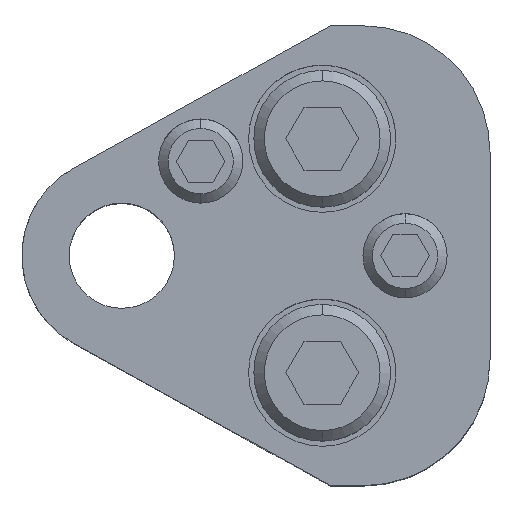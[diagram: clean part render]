
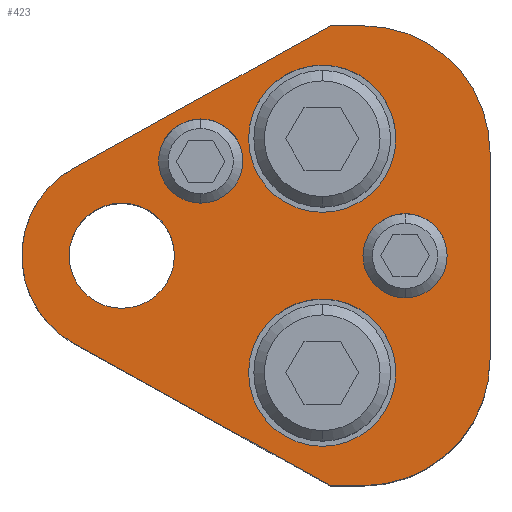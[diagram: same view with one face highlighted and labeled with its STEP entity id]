
A CAD part, top view. The second image highlights one B-rep face of the part: STEP entity #423.
In plain terms, the highlighted planar face has unit normal (0, 0, 1).
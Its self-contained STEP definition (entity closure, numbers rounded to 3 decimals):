
#198=FACE_BOUND('',#745,.T.);
#199=FACE_BOUND('',#746,.T.);
#200=FACE_BOUND('',#747,.T.);
#201=FACE_BOUND('',#748,.T.);
#202=FACE_BOUND('',#749,.T.);
#203=FACE_BOUND('',#750,.T.);
#273=CIRCLE('',#2385,12.);
#275=CIRCLE('',#2389,12.);
#277=CIRCLE('',#2394,4.);
#279=CIRCLE('',#2397,4.);
#281=CIRCLE('',#2400,4.);
#283=CIRCLE('',#2403,4.);
#293=CIRCLE('',#2418,9.5);
#294=CIRCLE('',#2419,7.);
#295=CIRCLE('',#2420,7.);
#296=CIRCLE('',#2421,7.);
#297=CIRCLE('',#2422,7.);
#298=CIRCLE('',#2423,5.);
#299=CIRCLE('',#2424,5.);
#423=ADVANCED_FACE('',(#198,#199,#200,#201,#202,#203),#519,.T.);
#519=PLANE('',#2425);
#745=EDGE_LOOP('',(#1122,#1123,#1124,#1125,#1126,#1127,#1128,#1129));
#746=EDGE_LOOP('',(#1130,#1131));
#747=EDGE_LOOP('',(#1132,#1133));
#748=EDGE_LOOP('',(#1134,#1135));
#749=EDGE_LOOP('',(#1136,#1137));
#750=EDGE_LOOP('',(#1138,#1139));
#1122=ORIENTED_EDGE('',*,*,#1794,.T.);
#1123=ORIENTED_EDGE('',*,*,#1752,.T.);
#1124=ORIENTED_EDGE('',*,*,#1756,.T.);
#1125=ORIENTED_EDGE('',*,*,#1759,.T.);
#1126=ORIENTED_EDGE('',*,*,#1762,.T.);
#1127=ORIENTED_EDGE('',*,*,#1765,.T.);
#1128=ORIENTED_EDGE('',*,*,#1768,.T.);
#1129=ORIENTED_EDGE('',*,*,#1795,.T.);
#1130=ORIENTED_EDGE('',*,*,#1796,.F.);
#1131=ORIENTED_EDGE('',*,*,#1797,.F.);
#1132=ORIENTED_EDGE('',*,*,#1798,.F.);
#1133=ORIENTED_EDGE('',*,*,#1799,.F.);
#1134=ORIENTED_EDGE('',*,*,#1780,.F.);
#1135=ORIENTED_EDGE('',*,*,#1776,.F.);
#1136=ORIENTED_EDGE('',*,*,#1774,.F.);
#1137=ORIENTED_EDGE('',*,*,#1770,.F.);
#1138=ORIENTED_EDGE('',*,*,#1800,.T.);
#1139=ORIENTED_EDGE('',*,*,#1801,.T.);
#1513=VERTEX_POINT('',#3544);
#1514=VERTEX_POINT('',#3546);
#1517=VERTEX_POINT('',#3553);
#1519=VERTEX_POINT('',#3559);
#1521=VERTEX_POINT('',#3565);
#1523=VERTEX_POINT('',#3571);
#1525=VERTEX_POINT('',#3577);
#1526=VERTEX_POINT('',#3582);
#1527=VERTEX_POINT('',#3583);
#1530=VERTEX_POINT('',#3594);
#1531=VERTEX_POINT('',#3595);
#1542=VERTEX_POINT('',#3630);
#1543=VERTEX_POINT('',#3633);
#1544=VERTEX_POINT('',#3634);
#1545=VERTEX_POINT('',#3637);
#1546=VERTEX_POINT('',#3638);
#1547=VERTEX_POINT('',#3641);
#1548=VERTEX_POINT('',#3642);
#1752=EDGE_CURVE('',#1514,#1513,#2006,.T.);
#1756=EDGE_CURVE('',#1513,#1517,#273,.T.);
#1759=EDGE_CURVE('',#1517,#1519,#2011,.T.);
#1762=EDGE_CURVE('',#1519,#1521,#275,.T.);
#1765=EDGE_CURVE('',#1521,#1523,#2015,.T.);
#1768=EDGE_CURVE('',#1523,#1525,#2018,.T.);
#1770=EDGE_CURVE('',#1526,#1527,#277,.T.);
#1774=EDGE_CURVE('',#1527,#1526,#279,.T.);
#1776=EDGE_CURVE('',#1530,#1531,#281,.T.);
#1780=EDGE_CURVE('',#1531,#1530,#283,.T.);
#1794=EDGE_CURVE('',#1542,#1514,#2028,.T.);
#1795=EDGE_CURVE('',#1525,#1542,#293,.T.);
#1796=EDGE_CURVE('',#1543,#1544,#294,.T.);
#1797=EDGE_CURVE('',#1544,#1543,#295,.T.);
#1798=EDGE_CURVE('',#1545,#1546,#296,.T.);
#1799=EDGE_CURVE('',#1546,#1545,#297,.T.);
#1800=EDGE_CURVE('',#1547,#1548,#298,.T.);
#1801=EDGE_CURVE('',#1548,#1547,#299,.T.);
#2006=LINE('',#3545,#2179);
#2011=LINE('',#3560,#2184);
#2015=LINE('',#3572,#2188);
#2018=LINE('',#3578,#2191);
#2028=LINE('',#3629,#2201);
#2179=VECTOR('',#2815,1.);
#2184=VECTOR('',#2828,1.);
#2188=VECTOR('',#2840,1.);
#2191=VECTOR('',#2845,1.);
#2201=VECTOR('',#2905,1.);
#2385=AXIS2_PLACEMENT_3D('',#3554,#2821,#2822);
#2389=AXIS2_PLACEMENT_3D('',#3566,#2833,#2834);
#2394=AXIS2_PLACEMENT_3D('',#3581,#2849,#2850);
#2397=AXIS2_PLACEMENT_3D('',#3590,#2857,#2858);
#2400=AXIS2_PLACEMENT_3D('',#3593,#2863,#2864);
#2403=AXIS2_PLACEMENT_3D('',#3602,#2871,#2872);
#2418=AXIS2_PLACEMENT_3D('',#3631,#2906,#2907);
#2419=AXIS2_PLACEMENT_3D('',#3632,#2908,#2909);
#2420=AXIS2_PLACEMENT_3D('',#3635,#2910,#2911);
#2421=AXIS2_PLACEMENT_3D('',#3636,#2912,#2913);
#2422=AXIS2_PLACEMENT_3D('',#3639,#2914,#2915);
#2423=AXIS2_PLACEMENT_3D('',#3640,#2916,#2917);
#2424=AXIS2_PLACEMENT_3D('',#3643,#2918,#2919);
#2425=AXIS2_PLACEMENT_3D('',#3644,#2920,#2921);
#2815=DIRECTION('',(1.,0.,0.));
#2821=DIRECTION('',(0.,0.,1.));
#2822=DIRECTION('',(-0.707,0.707,0.));
#2828=DIRECTION('',(0.,1.,0.));
#2833=DIRECTION('',(0.,0.,1.));
#2834=DIRECTION('',(-0.707,-0.707,0.));
#2840=DIRECTION('',(-1.,0.,0.));
#2845=DIRECTION('',(-0.875,-0.485,0.));
#2849=DIRECTION('',(0.,0.,1.));
#2850=DIRECTION('',(-1.,0.,0.));
#2857=DIRECTION('',(0.,0.,1.));
#2858=DIRECTION('',(1.,0.,0.));
#2863=DIRECTION('',(0.,0.,1.));
#2864=DIRECTION('',(-1.,0.,0.));
#2871=DIRECTION('',(0.,0.,1.));
#2872=DIRECTION('',(1.,0.,0.));
#2905=DIRECTION('',(0.875,-0.485,0.));
#2906=DIRECTION('',(0.,0.,1.));
#2907=DIRECTION('',(1.,0.,0.));
#2908=DIRECTION('',(0.,0.,1.));
#2909=DIRECTION('',(1.,0.,0.));
#2910=DIRECTION('',(0.,0.,1.));
#2911=DIRECTION('',(-1.,0.,0.));
#2912=DIRECTION('',(0.,0.,1.));
#2913=DIRECTION('',(1.,0.,0.));
#2914=DIRECTION('',(0.,0.,1.));
#2915=DIRECTION('',(-1.,0.,0.));
#2916=DIRECTION('',(0.,0.,-1.));
#2917=DIRECTION('',(-1.,0.,0.));
#2918=DIRECTION('',(0.,0.,-1.));
#2919=DIRECTION('',(1.,0.,0.));
#2920=DIRECTION('',(0.,0.,1.));
#2921=DIRECTION('',(-0.875,0.485,0.));
#3544=CARTESIAN_POINT('',(23.,-21.85,32.));
#3545=CARTESIAN_POINT('',(19.823,-21.85,32.));
#3546=CARTESIAN_POINT('',(19.823,-21.85,32.));
#3553=CARTESIAN_POINT('',(35.,-9.85,32.));
#3554=CARTESIAN_POINT('',(23.,-9.85,32.));
#3559=CARTESIAN_POINT('',(35.,9.85,32.));
#3560=CARTESIAN_POINT('',(35.,9.85,32.));
#3565=CARTESIAN_POINT('',(23.,21.85,32.));
#3566=CARTESIAN_POINT('',(23.,9.85,32.));
#3571=CARTESIAN_POINT('',(19.823,21.85,32.));
#3572=CARTESIAN_POINT('',(19.823,21.85,32.));
#3577=CARTESIAN_POINT('',(-4.606,8.309,32.));
#3578=CARTESIAN_POINT('',(19.823,21.85,32.));
#3581=CARTESIAN_POINT('',(7.5,9.,32.));
#3582=CARTESIAN_POINT('',(7.5,5.,32.));
#3583=CARTESIAN_POINT('',(7.5,13.,32.));
#3590=CARTESIAN_POINT('',(7.5,9.,32.));
#3593=CARTESIAN_POINT('',(26.925,0.,32.));
#3594=CARTESIAN_POINT('',(26.925,-4.,32.));
#3595=CARTESIAN_POINT('',(26.925,4.,32.));
#3602=CARTESIAN_POINT('',(26.925,0.,32.));
#3629=CARTESIAN_POINT('',(19.823,-21.85,32.));
#3630=CARTESIAN_POINT('',(-4.606,-8.309,32.));
#3631=CARTESIAN_POINT('',(0.,0.,32.));
#3632=CARTESIAN_POINT('',(19.05,11.12,32.));
#3633=CARTESIAN_POINT('',(19.05,18.12,32.));
#3634=CARTESIAN_POINT('',(19.05,4.12,32.));
#3635=CARTESIAN_POINT('',(19.05,11.12,32.));
#3636=CARTESIAN_POINT('',(19.05,-11.12,32.));
#3637=CARTESIAN_POINT('',(19.05,-4.12,32.));
#3638=CARTESIAN_POINT('',(19.05,-18.12,32.));
#3639=CARTESIAN_POINT('',(19.05,-11.12,32.));
#3640=CARTESIAN_POINT('',(0.,0.,32.));
#3641=CARTESIAN_POINT('',(0.,5.,32.));
#3642=CARTESIAN_POINT('',(0.,-5.,32.));
#3643=CARTESIAN_POINT('',(0.,0.,32.));
#3644=CARTESIAN_POINT('',(-4.606,-8.309,32.));
